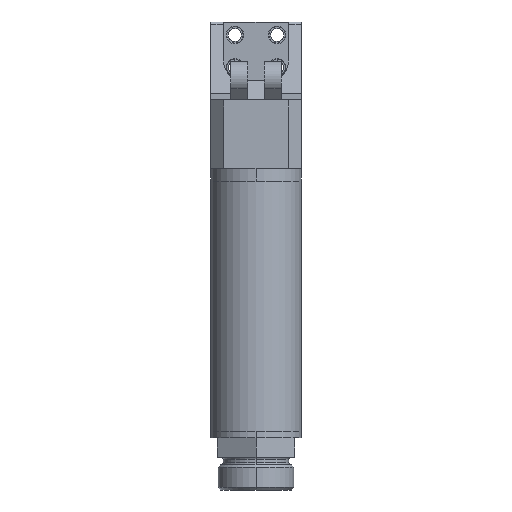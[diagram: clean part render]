
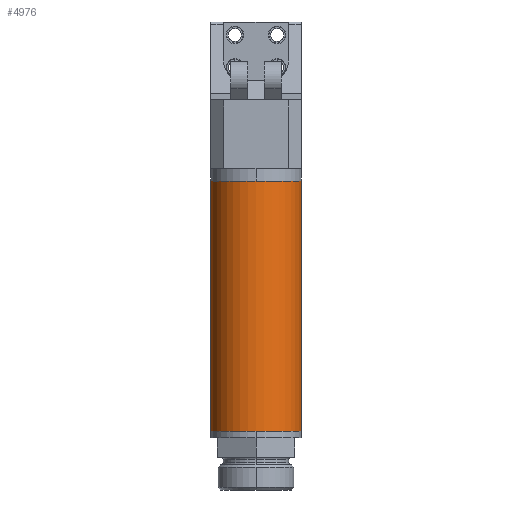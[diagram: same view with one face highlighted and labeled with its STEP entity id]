
A CAD part, front view. The second image highlights one B-rep face of the part: STEP entity #4976.
In plain terms, the highlighted cylindrical face has radius 7 mm (diameter 14 mm), a partial arc.
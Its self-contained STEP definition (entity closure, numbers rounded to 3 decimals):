
#384 = CARTESIAN_POINT ( 'NONE',  ( -23.387, -3.533, -24.258 ) ) ;
#465 = CARTESIAN_POINT ( 'NONE',  ( -9.387, -3.533, -62.758 ) ) ;
#506 = EDGE_CURVE ( 'NONE', #6984, #2704, #14215, .T. ) ;
#842 = DIRECTION ( 'NONE',  ( 0., 0., 1. ) ) ;
#1436 = VERTEX_POINT ( 'NONE', #1458 ) ;
#1458 = CARTESIAN_POINT ( 'NONE',  ( -9.387, -3.533, -24.258 ) ) ;
#1968 = DIRECTION ( 'NONE',  ( 0., 0., 1. ) ) ;
#2661 = EDGE_LOOP ( 'NONE', ( #15119, #8659, #6496, #4168 ) ) ;
#2704 = VERTEX_POINT ( 'NONE', #384 ) ;
#3227 = DIRECTION ( 'NONE',  ( 0., 0., -1. ) ) ;
#3380 = LINE ( 'NONE', #11725, #9827 ) ;
#3621 = DIRECTION ( 'NONE',  ( 0., 1., 0. ) ) ;
#4168 = ORIENTED_EDGE ( 'NONE', *, *, #8744, .T. ) ;
#4776 = CARTESIAN_POINT ( 'NONE',  ( -16.387, -3.533, -22.333 ) ) ;
#4976 = ADVANCED_FACE ( 'NONE', ( #10413 ), #7759, .T. ) ;
#5420 = AXIS2_PLACEMENT_3D ( 'NONE', #10495, #3227, #11747 ) ;
#6016 = DIRECTION ( 'NONE',  ( 0., 0., -1. ) ) ;
#6496 = ORIENTED_EDGE ( 'NONE', *, *, #12879, .F. ) ;
#6984 = VERTEX_POINT ( 'NONE', #12010 ) ;
#7311 = DIRECTION ( 'NONE',  ( 0., 0., -1. ) ) ;
#7546 = AXIS2_PLACEMENT_3D ( 'NONE', #4776, #6016, #3621 ) ;
#7718 = CARTESIAN_POINT ( 'NONE',  ( -23.387, -3.533, -62.758 ) ) ;
#7759 = CYLINDRICAL_SURFACE ( 'NONE', #7546, 7. ) ;
#8608 = VERTEX_POINT ( 'NONE', #465 ) ;
#8659 = ORIENTED_EDGE ( 'NONE', *, *, #506, .F. ) ;
#8744 = EDGE_CURVE ( 'NONE', #8608, #1436, #3380, .T. ) ;
#9285 = CIRCLE ( 'NONE', #5420, 7. ) ;
#9827 = VECTOR ( 'NONE', #1968, 1000. ) ;
#10413 = FACE_OUTER_BOUND ( 'NONE', #2661, .T. ) ;
#10495 = CARTESIAN_POINT ( 'NONE',  ( -16.387, -3.533, -62.758 ) ) ;
#11192 = CIRCLE ( 'NONE', #14086, 7. ) ;
#11725 = CARTESIAN_POINT ( 'NONE',  ( -9.387, -3.533, -62.758 ) ) ;
#11747 = DIRECTION ( 'NONE',  ( 1., 0., 0. ) ) ;
#12010 = CARTESIAN_POINT ( 'NONE',  ( -23.387, -3.533, -62.758 ) ) ;
#12879 = EDGE_CURVE ( 'NONE', #8608, #6984, #9285, .T. ) ;
#13825 = VECTOR ( 'NONE', #842, 1000. ) ;
#14086 = AXIS2_PLACEMENT_3D ( 'NONE', #14585, #7311, #15807 ) ;
#14215 = LINE ( 'NONE', #7718, #13825 ) ;
#14585 = CARTESIAN_POINT ( 'NONE',  ( -16.387, -3.533, -24.258 ) ) ;
#15119 = ORIENTED_EDGE ( 'NONE', *, *, #15743, .T. ) ;
#15743 = EDGE_CURVE ( 'NONE', #1436, #2704, #11192, .T. ) ;
#15807 = DIRECTION ( 'NONE',  ( 1., 0., 0. ) ) ;
